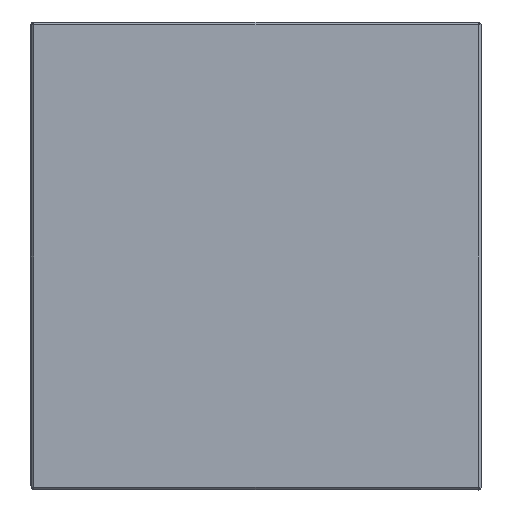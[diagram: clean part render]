
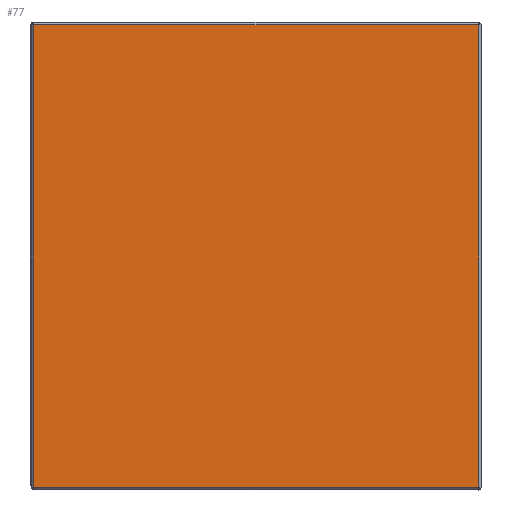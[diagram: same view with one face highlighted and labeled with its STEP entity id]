
A CAD part, left-side view. The second image highlights one B-rep face of the part: STEP entity #77.
In plain terms, the highlighted planar face has unit normal (-1, 0, 0).
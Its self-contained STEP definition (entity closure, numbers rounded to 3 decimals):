
#18=PLANE('',#627);
#77=ADVANCED_FACE('',(#116),#18,.T.);
#116=FACE_OUTER_BOUND('',#155,.T.);
#155=EDGE_LOOP('',(#285,#286,#287,#288));
#285=ORIENTED_EDGE('',*,*,#360,.F.);
#286=ORIENTED_EDGE('',*,*,#372,.F.);
#287=ORIENTED_EDGE('',*,*,#370,.F.);
#288=ORIENTED_EDGE('',*,*,#368,.F.);
#360=EDGE_CURVE('',#486,#496,#407,.T.);
#368=EDGE_CURVE('',#496,#501,#411,.T.);
#370=EDGE_CURVE('',#501,#491,#413,.T.);
#372=EDGE_CURVE('',#491,#486,#415,.T.);
#407=B_SPLINE_CURVE_WITH_KNOTS('',1,(#1380,#1381),.UNSPECIFIED.,.F.,.F.,
(2,2),(0.,46.3),.UNSPECIFIED.);
#411=B_SPLINE_CURVE_WITH_KNOTS('',1,(#1400,#1401),.UNSPECIFIED.,.F.,.F.,
(2,2),(0.,44.5),.UNSPECIFIED.);
#413=B_SPLINE_CURVE_WITH_KNOTS('',1,(#1404,#1405),.UNSPECIFIED.,.F.,.F.,
(2,2),(0.,46.3),.UNSPECIFIED.);
#415=B_SPLINE_CURVE_WITH_KNOTS('',1,(#1408,#1409),.UNSPECIFIED.,.F.,.F.,
(2,2),(0.,44.5),.UNSPECIFIED.);
#486=VERTEX_POINT('',#1312);
#491=VERTEX_POINT('',#1317);
#496=VERTEX_POINT('',#1322);
#501=VERTEX_POINT('',#1327);
#627=AXIS2_PLACEMENT_3D('',#1309,#656,$);
#656=DIRECTION('',(-1.,0.,0.));
#1309=CARTESIAN_POINT('',(-277.654,-80.888,13.918));
#1312=CARTESIAN_POINT('',(-277.654,-76.318,9.168));
#1317=CARTESIAN_POINT('',(-277.654,-31.818,9.168));
#1322=CARTESIAN_POINT('',(-277.654,-76.318,-37.132));
#1327=CARTESIAN_POINT('',(-277.654,-31.818,-37.132));
#1380=CARTESIAN_POINT('',(-277.654,-76.318,9.168));
#1381=CARTESIAN_POINT('',(-277.654,-76.318,-37.132));
#1400=CARTESIAN_POINT('',(-277.654,-76.318,-37.132));
#1401=CARTESIAN_POINT('',(-277.654,-31.818,-37.132));
#1404=CARTESIAN_POINT('',(-277.654,-31.818,-37.132));
#1405=CARTESIAN_POINT('',(-277.654,-31.818,9.168));
#1408=CARTESIAN_POINT('',(-277.654,-31.818,9.168));
#1409=CARTESIAN_POINT('',(-277.654,-76.318,9.168));
